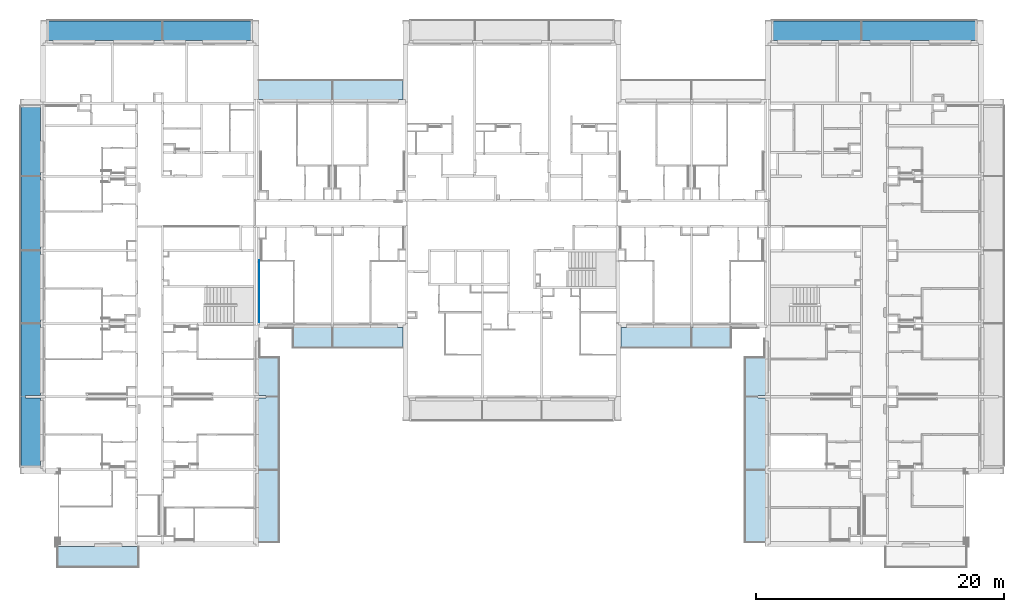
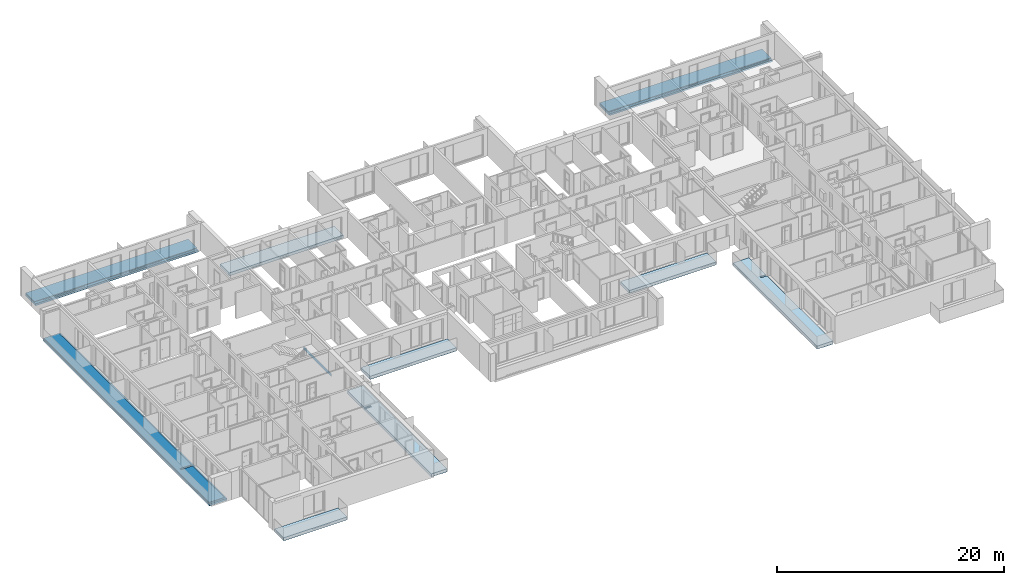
# One storey, part 1 of 64: 7 slabs, 3 beams.
"""IFC2X3 building model written with IfcOpenShell, lengths in millimetres."""

from ifc_helpers import new_model, entity, si_unit, converted_unit, derived_unit, money_unit, direction, frame, origin_with_axes, place, context, subcontext, project, spatial, faceted_brep, material, material_list, type_object, element, save


model = new_model("IFC2X3")

# Units and contexts
model_context = context("Model", 3, precision=0.01, world=origin_with_axes(), true_north=direction((0.34421633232, 0.938890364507)))
body_context = subcontext(model_context, "Body", "Model", "MODEL_VIEW")
ifc_project = project(units=[si_unit("LENGTHUNIT", "METRE", prefix="MILLI"), si_unit("AREAUNIT", "SQUARE_METRE"), si_unit("VOLUMEUNIT", "CUBIC_METRE"), converted_unit("PLANEANGLEUNIT", "DEGREE", entity("IfcPlaneAngleMeasure", 0.0174532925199), si_unit("PLANEANGLEUNIT", "RADIAN"), dimensions=[0, 0, 0, 0, 0, 0, 0]), si_unit("SOLIDANGLEUNIT", "STERADIAN"), money_unit("USD"), converted_unit("TIMEUNIT", "Year", entity("IfcTimeMeasure", 31556926.0), si_unit("TIMEUNIT", "SECOND"), dimensions=[0, 0, 1, 0, 0, 0, 0]), si_unit("MASSUNIT", "GRAM", prefix="KILO"), si_unit("THERMODYNAMICTEMPERATUREUNIT", "DEGREE_CELSIUS"), si_unit("LUMINOUSINTENSITYUNIT", "LUMEN"), si_unit("ENERGYUNIT", "JOULE", prefix="MEGA"), derived_unit("THERMALCONDUCTANCEUNIT", [(si_unit("POWERUNIT", "WATT"), 1), (si_unit("LENGTHUNIT", "METRE"), -1), (si_unit("THERMODYNAMICTEMPERATUREUNIT", "KELVIN"), -1)]), derived_unit("SPECIFICHEATCAPACITYUNIT", [(si_unit("ENERGYUNIT", "JOULE"), 1), (si_unit("MASSUNIT", "GRAM", prefix="KILO"), -1), (si_unit("THERMODYNAMICTEMPERATUREUNIT", "KELVIN"), -1)]), derived_unit("MASSDENSITYUNIT", [(si_unit("MASSUNIT", "GRAM", prefix="KILO"), 1), (si_unit("VOLUMEUNIT", "CUBIC_METRE"), -1)])], contexts=[model_context])

# Site, building, storey
site_placement = place(None, origin_with_axes())
site = spatial("IfcSite", under=ifc_project, at=site_placement, Name="USTRONIE MORSKIE", CompositionType="ELEMENT")
building_placement = place(site_placement, origin_with_axes())
building = spatial("IfcBuilding", under=site, at=building_placement, Name="Budynek", CompositionType="ELEMENT")
storey_placement = place(building_placement, frame((0.0, 0.0, 7000.0), z_axis=(0.0, 0.0, 1.0), x_axis=(1.0, 0.0, 0.0)))
storey = spatial("IfcBuildingStorey", under=building, at=storey_placement, Name="PIĘTRO 2", CompositionType="ELEMENT", Elevation=7000.0)

# Beams
ifc_material_1 = material(Name="Laminat")
ifc_material_2 = material(Name="Membrana przeciwwilgociowa")
ifc_material_3 = material(Name="Blacha ocynkowana")
ifc_material_4 = material(Name="Beton konstrukcyjny B25")
ifc_material_5 = material(Name="Płyty styropianowe twarde HIGH-PRIORITY")
ifc_material_list_1 = material_list([ifc_material_1, ifc_material_2, ifc_material_3, ifc_material_4, ifc_material_5])
beam_type = type_object("IfcBeamType", Name="USTR - balkon_02 1810 x 320", PredefinedType="NOTDEFINED")
beam_1_placement = place(storey_placement, frame((425357.789911, 749551.197031, -360.000001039), z_axis=(0.0, 0.0, 1.0), x_axis=(-9.14543761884e-06, 0.999999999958, 0.0)))
element("IfcBeam", 1, at=beam_1_placement, inside=storey, type_object=beam_type, material=ifc_material_list_1, Name="B1", context=body_context, shape_type="Brep", body=[
    faceted_brep([(1782.49979959, 16579.8526906, 214.999996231), (1782.49979959, 16579.8526906, 309.999996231), (1782.4997996, 0.0, 309.999996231), (1782.4997996, 0.0, 214.999996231), (214.999892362, 16579.867026, 309.999996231), (1757.49989236, 16579.8529192, 214.999996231), (1757.49989236, 16579.8529192, 284.999996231), (214.999892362, 16579.867026, 284.999996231), (214.999892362, 0.0, 309.999996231), (214.999892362, 0.0, 284.999996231), (1757.49989236, 0.0, 284.999996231), (1757.49989236, 0.0, 214.999996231)], [[[0, 1, 2, 3]], [[4, 1, 0, 5, 6, 7]], [[1, 4, 8, 2]], [[3, 2, 8, 9, 10, 11]], [[5, 0, 3, 11]], [[6, 5, 11, 10]], [[7, 6, 10, 9]], [[4, 7, 9, 8]]]),
    faceted_brep([(1799.99979832, 0.0, 209.999997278), (1799.99979832, 16580.0, 209.999997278), (199.999975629, 16580.0, 209.999997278), (199.999975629, 0.0, 209.999997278), (1799.99979832, 0.0, 200.000019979), (1799.99979832, 16580.0, 200.000019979), (199.999975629, 16580.0, 199.999995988), (199.999975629, 0.0, 199.999995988)], [[[0, 1, 2, 3]], [[4, 5, 1, 0]], [[2, 1, 5, 6]], [[3, 2, 6, 7]], [[4, 0, 3, 7]], [[7, 6, 5, 4]]]),
    faceted_brep([(1810.03048454, 0.0, 210.000001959), (1810.03048454, 16580.0, 210.000001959), (1799.99980792, 16580.0, 210.000001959), (1799.99980792, 0.0, 210.000001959), (1810.03048454, 0.0, -10.0000071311), (1810.03048454, 16580.0, -10.0000071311), (209.999402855, 16580.0, -10.0000071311), (209.999887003, 16580.0, 1.52888350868e-05), (1799.99980792, 16580.0, -1.01926298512e-05), (1799.99980792, 0.0, -1.01926298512e-05), (209.999887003, 0.0, 1.52888350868e-05), (209.999402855, 0.0, -10.0000071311)], [[[0, 1, 2, 3]], [[4, 5, 1, 0]], [[2, 1, 5, 6, 7, 8]], [[3, 2, 8, 9]], [[4, 0, 3, 9, 10, 11]], [[11, 6, 5, 4]], [[10, 7, 6, 11]], [[9, 8, 7, 10]]]),
    faceted_brep([(199.999996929, 16580.0, 200.000023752), (99.9999716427, 16580.0, 200.000023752), (99.9999716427, 0.0, 200.000023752), (199.999996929, 0.0, 200.000023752), (1799.99981143, 16580.0, 200.000023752), (1799.99981143, 16580.0, 0.0), (209.999887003, 16580.0, 1.52888350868e-05), (99.9999716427, 16580.0, 0.0), (99.9999716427, 0.0, 0.0), (209.999887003, 0.0, 1.52888350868e-05), (1799.99981143, 0.0, 0.0), (1799.99981143, 0.0, 200.000023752)], [[[0, 1, 2, 3]], [[0, 4, 5, 6, 7, 1]], [[1, 7, 8, 2]], [[3, 2, 8, 9, 10, 11]], [[4, 0, 3, 11]], [[5, 4, 11, 10]], [[6, 5, 10, 9]], [[7, 6, 9, 8]]]),
    faceted_brep([(99.9999724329, 16580.0, 200.000021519), (99.9999724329, 16580.0, 0.0), (0.15345995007, 16580.0, 0.0), (0.15345995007, 16580.0, 200.000000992), (99.9999724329, 0.0, 200.000021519), (99.9999724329, 0.0, 0.0), (1.13686837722e-10, 1215.21575935, 0.0), (0.0, 0.0, 0.0), (0.0, 1215.21576401, 200.000021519), (0.0, 0.0, 200.000021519)], [[[0, 1, 2, 3]], [[1, 0, 4, 5]], [[6, 2, 1, 5, 7]], [[2, 6, 8, 3]], [[3, 8, 9, 4, 0]], [[5, 4, 9, 7]], [[8, 6, 7, 9]]]),
])
beam_2_placement = place(storey_placement, frame((349967.921003, 715201.199036, -360.000001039), z_axis=(0.0, 0.0, 1.0), x_axis=(1.0, 0.0, 0.0)))
element("IfcBeam", 2, at=beam_2_placement, inside=storey, type_object=beam_type, material=ifc_material_list_1, Name="P8", context=body_context, shape_type="Brep", body=[
    faceted_brep([(-214.999892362, 29290.0, 284.999996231), (-214.999892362, 29290.0, 309.999996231), (-214.999892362, 5900.0, 309.999996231), (-214.999892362, 5900.0, 284.999996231), (-1782.4997996, 29290.0, 309.999996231), (-1757.49989236, 29290.0, 284.999996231), (-1757.49989236, 29290.0, 214.999996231), (-1782.4997996, 29290.0, 214.999996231), (-1782.4997996, 110.0, 309.999996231), (-214.999892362, 110.0, 309.999996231), (-214.999892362, 5700.0, 309.999996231), (-1420.00008423, 5700.0, 309.999996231), (-1420.00008423, 5900.0, 309.999996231), (-1420.00008423, 5900.0, 284.999996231), (-1420.00008423, 5700.0, 284.999996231), (-214.999892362, 5700.0, 284.999996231), (-214.999892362, 110.0, 284.999996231), (-1757.49989236, 110.0, 284.999996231), (-1757.49989236, 110.0, 214.999996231), (-1782.4997996, 110.0, 214.999996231)], [[[0, 1, 2, 3]], [[4, 1, 0, 5, 6, 7]], [[1, 4, 8, 9, 10, 11, 12, 2]], [[3, 2, 12, 13]], [[5, 0, 3, 13, 14, 15, 16, 17]], [[6, 5, 17, 18]], [[7, 6, 18, 19]], [[4, 7, 19, 8]], [[16, 9, 8, 19, 18, 17]], [[15, 10, 9, 16]], [[11, 10, 15, 14]], [[12, 11, 14, 13]]]),
    faceted_brep([(-1420.00008423, 5700.0, 210.000015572), (-1420.00008423, 5900.0, 210.000015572), (-199.99997563, 5900.0, 209.999997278), (-199.99997563, 29400.0, 209.999997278), (-1799.99979832, 29400.0, 209.999997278), (-1799.99979832, 0.0, 209.999997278), (-199.99997563, 0.0, 209.999997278), (-199.99997563, 5700.0, 209.999997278), (-1420.00008423, 5700.0, 200.000001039), (-1420.00008423, 5900.0, 200.000001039), (-199.99997563, 5900.0, 200.000001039), (-199.99997563, 29400.0, 199.999995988), (-1799.99979832, 29400.0, 200.000019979), (-1799.99979832, 0.0, 200.000019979), (-199.99997563, 0.0, 199.999995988), (-199.99997563, 5700.0, 200.000001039)], [[[0, 1, 2, 3, 4, 5, 6, 7]], [[1, 0, 8, 9]], [[10, 2, 1, 9]], [[2, 10, 11, 3]], [[11, 12, 4, 3]], [[5, 4, 12, 13]], [[5, 13, 14, 6]], [[15, 7, 6, 14]], [[0, 7, 15, 8]], [[8, 15, 14, 13, 12, 11, 10, 9]]]),
    faceted_brep([(-1420.00008423, 5700.0, 1.039014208e-06), (-1420.00008423, 5900.0, 1.039014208e-06), (-209.999887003, 5900.0, 1.039014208e-06), (-209.999887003, 29400.0, 1.52888350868e-05), (-1799.99980792, 29400.0, -1.01926298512e-05), (-1799.99980792, 0.0, -1.01926298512e-05), (-209.999887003, 0.0, 1.52888350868e-05), (-209.999887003, 5700.0, 1.039014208e-06), (-1420.00008423, 5700.0, -10.0000071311), (-1420.00008423, 5900.0, -10.0000071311), (-209.999402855, 5900.0, -10.0000071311), (-209.999402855, 29400.0, -10.0000071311), (-1810.03048454, 29400.0, -10.0000071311), (-1810.03048454, 29400.0, 210.000001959), (-1799.99980792, 29400.0, 210.000001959), (-1799.99980792, 0.0, 210.000001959), (-1810.03048454, 0.0, 210.000001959), (-1810.03048454, 0.0, -10.0000071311), (-209.999402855, 0.0, -10.0000071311), (-209.999402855, 5700.0, -10.0000071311)], [[[0, 1, 2, 3, 4, 5, 6, 7]], [[1, 0, 8, 9]], [[10, 2, 1, 9]], [[2, 10, 11, 3]], [[11, 12, 13, 14, 4, 3]], [[5, 4, 14, 15]], [[16, 17, 18, 6, 5, 15]], [[19, 7, 6, 18]], [[0, 7, 19, 8]], [[8, 19, 18, 17, 12, 11, 10, 9]], [[16, 13, 12, 17]], [[15, 14, 13, 16]]]),
    faceted_brep([(-1799.99981143, 29400.0, 200.000023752), (-1799.99981143, 29400.0, 0.0), (-1799.99981143, 0.0, 0.0), (-1799.99981143, 0.0, 200.000023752), (-199.999996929, 29400.0, 200.000023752), (-99.9999716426, 29400.0, 200.000023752), (-99.9999716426, 29400.0, 0.0), (-209.999887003, 29400.0, 1.52888350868e-05), (-209.999887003, 0.0, 1.52888350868e-05), (-99.9999716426, 0.0, 0.0), (-99.9999716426, 0.0, 200.000023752), (-199.999996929, 0.0, 200.000023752)], [[[0, 1, 2, 3]], [[0, 4, 5, 6, 7, 1]], [[1, 7, 8, 2]], [[3, 2, 8, 9, 10, 11]], [[4, 0, 3, 11]], [[5, 4, 11, 10]], [[6, 5, 10, 9]], [[7, 6, 9, 8]]]),
    faceted_brep([(-99.9999724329, 0.0, 200.000021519), (-99.9999724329, 29400.0, 200.000021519), (-99.9999724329, 29400.0, 0.0), (-99.9999724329, 0.0, 0.0), (0.0, 0.0, 200.000021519), (0.0, 29400.0, 200.000021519), (0.0, 29400.0, 0.0), (0.0, 0.0, 0.0)], [[[0, 1, 2, 3]], [[4, 5, 1, 0]], [[2, 1, 5, 6]], [[3, 2, 6, 7]], [[4, 0, 3, 7]], [[7, 6, 5, 4]]]),
])
beam_3_placement = place(storey_placement, frame((366857.789911, 749551.197031, -360.000001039), z_axis=(0.0, 0.0, 1.0), x_axis=(-9.14543761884e-06, 0.999999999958, 0.0)))
element("IfcBeam", 3, at=beam_3_placement, inside=storey, type_object=beam_type, material=ifc_material_list_1, Name="B1", context=body_context, shape_type="Brep", body=[
    faceted_brep([(1782.49979959, 16579.8526906, 214.999996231), (1782.49979959, 16579.8526906, 309.999996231), (1782.49979959, 0.0, 309.999996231), (1782.49979959, 0.0, 214.999996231), (214.999892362, 16579.867026, 309.999996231), (1757.49989236, 16579.8529192, 214.999996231), (1757.49989236, 16579.8529192, 284.999996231), (214.999892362, 16579.867026, 284.999996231), (214.999892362, 0.0, 309.999996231), (214.999892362, 0.0, 284.999996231), (1757.49989236, 0.0, 284.999996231), (1757.49989236, 0.0, 214.999996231)], [[[0, 1, 2, 3]], [[4, 1, 0, 5, 6, 7]], [[1, 4, 8, 2]], [[3, 2, 8, 9, 10, 11]], [[5, 0, 3, 11]], [[6, 5, 11, 10]], [[7, 6, 10, 9]], [[4, 7, 9, 8]]]),
    faceted_brep([(1799.99979832, 0.0, 209.999997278), (1799.99979832, 16580.0, 209.999997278), (199.999975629, 16580.0, 209.999997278), (199.999975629, 0.0, 209.999997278), (1799.99979832, 0.0, 200.000019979), (1799.99979832, 16580.0, 200.000019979), (199.999975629, 16580.0, 199.999995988), (199.999975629, 0.0, 199.999995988)], [[[0, 1, 2, 3]], [[4, 5, 1, 0]], [[2, 1, 5, 6]], [[3, 2, 6, 7]], [[4, 0, 3, 7]], [[7, 6, 5, 4]]]),
    faceted_brep([(1810.03048454, 0.0, 210.000001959), (1810.03048454, 16580.0, 210.000001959), (1799.99980792, 16580.0, 210.000001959), (1799.99980792, 0.0, 210.000001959), (1810.03048454, 0.0, -10.0000071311), (1810.03048454, 16580.0, -10.0000071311), (209.999402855, 16580.0, -10.0000071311), (209.999887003, 16580.0, 1.52888350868e-05), (1799.99980792, 16580.0, -1.01926298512e-05), (1799.99980792, 0.0, -1.01926298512e-05), (209.999887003, 0.0, 1.52888350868e-05), (209.999402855, 0.0, -10.0000071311)], [[[0, 1, 2, 3]], [[4, 5, 1, 0]], [[2, 1, 5, 6, 7, 8]], [[3, 2, 8, 9]], [[4, 0, 3, 9, 10, 11]], [[11, 6, 5, 4]], [[10, 7, 6, 11]], [[9, 8, 7, 10]]]),
    faceted_brep([(199.999996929, 16580.0, 200.000023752), (99.9999716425, 16580.0, 200.000023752), (99.9999716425, 0.0, 200.000023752), (199.999996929, 0.0, 200.000023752), (1799.99981143, 16580.0, 200.000023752), (1799.99981143, 16580.0, 0.0), (209.999887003, 16580.0, 1.52888350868e-05), (99.9999716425, 16580.0, 0.0), (99.9999716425, 0.0, 0.0), (209.999887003, 0.0, 1.52888350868e-05), (1799.99981143, 0.0, 0.0), (1799.99981143, 0.0, 200.000023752)], [[[0, 1, 2, 3]], [[0, 4, 5, 6, 7, 1]], [[1, 7, 8, 2]], [[3, 2, 8, 9, 10, 11]], [[4, 0, 3, 11]], [[5, 4, 11, 10]], [[6, 5, 10, 9]], [[7, 6, 9, 8]]]),
    faceted_brep([(0.104341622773, 11189.8689911, 200.000001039), (0.0512980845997, 5389.86899137, 200.000001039), (0.0494689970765, 5189.86899138, 200.000001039), (0.00200537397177, 0.0, 200.000001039), (99.9999724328, 0.0, 200.000021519), (99.9999724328, 16580.0, 200.000021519), (0.153636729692, 16580.0, 200.000001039), (0.106170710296, 11389.8689911, 200.000001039), (0.153636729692, 16580.0, 0.0), (0.106170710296, 11389.8689911, 1.03901331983e-06), (0.104341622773, 11189.8689911, 1.03901331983e-06), (0.0512980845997, 5389.86899137, 1.03901331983e-06), (0.0494689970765, 5189.86899138, 1.03901331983e-06), (0.00200537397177, 0.0, 0.0), (99.9999724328, 0.0, 0.0), (99.9999724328, 16580.0, 0.0)], [[[0, 1, 2, 3, 4, 5, 6, 7]], [[2, 1, 0, 7, 6, 8, 9, 10, 11, 12, 13, 3]], [[3, 13, 14, 4]], [[14, 15, 5, 4]], [[8, 6, 5, 15]], [[9, 8, 15, 14, 13, 12, 11, 10]]]),
])

# Slabs
ifc_material_6 = material(Name="Wylewka")
ifc_material_7 = material(Name="Płyty styropianowe EPS PODŁOGA")
ifc_material_8 = material(Name="STROP monolityczny")
ifc_material_list_2 = material_list([ifc_material_6, ifc_material_7, ifc_material_8])
slab_type_1 = type_object("IfcSlabType", Name="502-PS STROP POWTARZALNA 360", PredefinedType="FLOOR")
slab_1_placement = place(storey_placement, frame((367417.932951, 732011.199132, 0.0), z_axis=(0.0, 0.0, 1.0), x_axis=(1.0, 0.0, 0.0)))
element("IfcSlab", 4, at=slab_1_placement, inside=storey, type_object=slab_type_1, material=ifc_material_list_2, Name="P4", PredefinedType="FLOOR", context=body_context, shape_type="Brep", body=[
    faceted_brep([(0.000114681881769, -120.0, -80.0), (0.000114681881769, -120.0, -15.0), (0.00478796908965, -5010.00009633, -15.0), (0.00478796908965, -5010.00009633, -80.0), (-0.0120320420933, -120.0, -15.0), (-0.0120320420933, -120.0, -80.0), (-0.0120320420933, -5010.00009633, -15.0), (-0.0120320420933, -5010.00009633, -80.0)], [[[0, 1, 2, 3]], [[4, 1, 0, 5]], [[1, 4, 6, 2]], [[7, 3, 2, 6]], [[5, 0, 3, 7]], [[4, 5, 7, 6]]]),
    faceted_brep([(0.000114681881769, -120.0, -160.0), (0.000114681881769, -120.0, -80.0), (0.00478796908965, -5010.00009633, -80.0), (0.00478796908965, -5010.00009633, -160.0), (-0.0120320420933, -120.0, -80.0), (-0.0120320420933, -120.0, -160.0), (-0.0120320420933, -5010.00009633, -80.0), (-0.0120320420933, -5010.00009633, -160.0)], [[[0, 1, 2, 3]], [[4, 1, 0, 5]], [[1, 4, 6, 2]], [[7, 3, 2, 6]], [[5, 0, 3, 7]], [[4, 5, 7, 6]]]),
    faceted_brep([(0.0, 0.0, -360.0), (-0.0120320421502, 0.0, -360.0), (-0.0120320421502, 0.0, -160.0), (0.0, 0.0, -160.0), (0.00478796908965, -5010.00009633, -360.0), (-0.0120320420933, -5010.00009633, -360.0), (-0.0120320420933, -5010.00009633, -160.0), (0.00478796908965, -5010.00009633, -160.0)], [[[0, 1, 2, 3]], [[0, 4, 5, 1]], [[1, 5, 6, 2]], [[3, 2, 6, 7]], [[4, 0, 3, 7]], [[5, 4, 7, 6]]]),
])
ifc_material_9 = material(Name="Płytki okładzinowe")
ifc_material_10 = material(Name="Pustka powietrzna")
ifc_material_list_3 = material_list([ifc_material_9, ifc_material_10, ifc_material_2, ifc_material_4, ifc_material_1])
slab_type_2 = type_object("IfcSlabType", Name="Balkony na HALFENACH 330", PredefinedType="FLOOR")
slab_2_placement = place(storey_placement, frame((367367.920919, 745001.199408, -50.0), z_axis=(0.0, 0.0, 1.0), x_axis=(1.0, 0.0, 0.0)))
element("IfcSlab", 5, at=slab_2_placement, inside=storey, type_object=slab_type_2, material=ifc_material_list_3, Name="P3", PredefinedType="FLOOR", context=body_context, shape_type="Brep", body=[
    faceted_brep([(0.0, 0.0, -25.0), (11650.0, 0.0132933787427, -25.0), (11650.0, 0.0132933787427, 0.0), (0.0, 0.0, 0.0), (0.0, 1599.99472734, -25.0), (11650.0, 1599.99472734, -25.0), (11650.0, 1599.99472734, 0.0), (0.0, 1599.99472734, 0.0)], [[[0, 1, 2, 3]], [[1, 0, 4, 5]], [[1, 5, 6, 2]], [[7, 3, 2, 6]], [[4, 0, 3, 7]], [[5, 4, 7, 6]]]),
    faceted_brep([(0.0, 0.0, -105.0), (11650.0, 0.0132933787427, -105.0), (11650.0, 0.0132933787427, -25.0), (0.0, 0.0, -25.0), (0.0, 1599.99472734, -105.0), (11650.0, 1599.99472734, -105.0), (11650.0, 1599.99472734, -25.0), (0.0, 1599.99472734, -25.0)], [[[0, 1, 2, 3]], [[1, 0, 4, 5]], [[1, 5, 6, 2]], [[7, 3, 2, 6]], [[4, 0, 3, 7]], [[5, 4, 7, 6]]]),
    faceted_brep([(0.0, 0.0, -110.0), (11650.0, 0.0132933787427, -110.0), (11650.0, 0.0132933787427, -105.0), (0.0, 0.0, -105.0), (0.0, 1599.99472734, -110.0), (11650.0, 1599.99472734, -110.0), (11650.0, 1599.99472734, -105.0), (0.0, 1599.99472734, -105.0)], [[[0, 1, 2, 3]], [[1, 0, 4, 5]], [[1, 5, 6, 2]], [[7, 3, 2, 6]], [[4, 0, 3, 7]], [[5, 4, 7, 6]]]),
    faceted_brep([(11650.0, 0.0132933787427, -310.0), (11650.0, 0.0132933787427, -110.0), (0.0, 0.0, -110.0), (0.0, 0.0, -310.0), (11650.0, 1599.99472734, -310.0), (11650.0, 1599.99472734, -110.0), (0.0, 1599.99472734, -110.0), (0.0, 1599.99472734, -310.0)], [[[0, 1, 2, 3]], [[4, 5, 1, 0]], [[2, 1, 5, 6]], [[3, 2, 6, 7]], [[3, 7, 4, 0]], [[7, 6, 5, 4]]]),
    faceted_brep([(9.99999999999, 1599.99472734, -330.0), (9.99999999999, 1599.99472734, -310.0), (11640.0, 1599.99472734, -310.0), (11640.0, 1599.99472734, -330.0), (9.99999999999, 9.9999141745, -310.0), (9.99999999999, 9.9999141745, -330.0), (11640.0, 9.9999141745, -310.0), (11640.0, 9.9999141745, -330.0)], [[[0, 1, 2, 3]], [[4, 1, 0, 5]], [[1, 4, 6, 2]], [[3, 2, 6, 7]], [[5, 0, 3, 7]], [[4, 5, 7, 6]]]),
])
slab_3_placement = place(storey_placement, frame((396619.640549, 725001.198359, -50.0), z_axis=(0.0, 0.0, 1.0), x_axis=(1.0, 0.0, 0.0)))
element("IfcSlab", 6, at=slab_3_placement, inside=storey, type_object=slab_type_2, material=ifc_material_list_3, Name="P3", PredefinedType="FLOOR", context=body_context, shape_type="Brep", body=[
    faceted_brep([(0.0, 0.0, -25.0), (8838.27323738, 0.0, -25.0), (8838.27323738, 0.0, 0.0), (0.0, 0.0, 0.0), (-1.44800593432, 1600.00067759, -25.0), (8838.27323738, 1600.00067759, -25.0), (8838.27323738, 1600.00067759, 0.0), (-1.44800593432, 1600.00067759, 0.0)], [[[0, 1, 2, 3]], [[1, 0, 4, 5]], [[1, 5, 6, 2]], [[7, 3, 2, 6]], [[4, 0, 3, 7]], [[5, 4, 7, 6]]]),
    faceted_brep([(0.0, 0.0, -105.0), (8838.27323738, 0.0, -105.0), (8838.27323738, 0.0, -25.0), (0.0, 0.0, -25.0), (-1.44800593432, 1600.00067759, -105.0), (8838.27323738, 1600.00067759, -105.0), (8838.27323738, 1600.00067759, -25.0), (-1.44800593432, 1600.00067759, -25.0)], [[[0, 1, 2, 3]], [[1, 0, 4, 5]], [[1, 5, 6, 2]], [[7, 3, 2, 6]], [[4, 0, 3, 7]], [[5, 4, 7, 6]]]),
    faceted_brep([(0.0, 0.0, -110.0), (8838.27323738, 0.0, -110.0), (8838.27323738, 0.0, -105.0), (0.0, 0.0, -105.0), (-1.44800593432, 1600.00067759, -110.0), (8838.27323738, 1600.00067759, -110.0), (8838.27323738, 1600.00067759, -105.0), (-1.44800593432, 1600.00067759, -105.0)], [[[0, 1, 2, 3]], [[1, 0, 4, 5]], [[1, 5, 6, 2]], [[7, 3, 2, 6]], [[4, 0, 3, 7]], [[5, 4, 7, 6]]]),
    faceted_brep([(8838.27323738, 0.0, -310.0), (8838.27323738, 0.0, -110.0), (0.0, 0.0, -110.0), (0.0, 0.0, -310.0), (8838.27323738, 1600.00067759, -310.0), (8838.27323738, 1600.00067759, -110.0), (-1.44800593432, 1600.00067759, -110.0), (-1.44800593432, 1600.00067759, -310.0)], [[[0, 1, 2, 3]], [[4, 5, 1, 0]], [[2, 1, 5, 6]], [[3, 2, 6, 7]], [[3, 7, 4, 0]], [[7, 6, 5, 4]]]),
    faceted_brep([(8838.27323738, 1590.00067759, -330.0), (8838.27323738, 1590.00067759, -310.0), (8838.27323738, 0.0, -310.0), (8838.27323738, 0.0, -330.0), (8.28037021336, 1590.00067759, -310.0), (8.28037021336, 1590.00067759, -330.0), (8.28037021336, 0.0, -310.0), (8.28037021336, 0.0, -330.0)], [[[0, 1, 2, 3]], [[4, 1, 0, 5]], [[1, 4, 6, 2]], [[6, 7, 3, 2]], [[5, 0, 3, 7]], [[4, 5, 7, 6]]]),
])
slab_4_placement = place(storey_placement, frame((351167.920919, 707301.199036, -50.0), z_axis=(0.0, 0.0, 1.0), x_axis=(1.0, 0.0, 0.0)))
element("IfcSlab", 7, at=slab_4_placement, inside=storey, type_object=slab_type_2, material=ifc_material_list_3, Name="P3", PredefinedType="FLOOR", context=body_context, shape_type="Brep", body=[
    faceted_brep([(6450.0, 0.0, -25.0), (6450.0, 0.0, 0.0), (0.0, 0.0, 0.0), (0.0, 0.0, -25.0), (6450.0, 1600.0, -25.0), (6450.0, 1600.0, 0.0), (0.0, 1600.0, 0.0), (0.0, 1600.0, -25.0)], [[[0, 1, 2, 3]], [[4, 5, 1, 0]], [[2, 1, 5, 6]], [[3, 2, 6, 7]], [[3, 7, 4, 0]], [[7, 6, 5, 4]]]),
    faceted_brep([(6450.0, 0.0, -105.0), (6450.0, 0.0, -25.0), (0.0, 0.0, -25.0), (0.0, 0.0, -105.0), (6450.0, 1600.0, -105.0), (6450.0, 1600.0, -25.0), (0.0, 1600.0, -25.0), (0.0, 1600.0, -105.0)], [[[0, 1, 2, 3]], [[4, 5, 1, 0]], [[2, 1, 5, 6]], [[3, 2, 6, 7]], [[3, 7, 4, 0]], [[7, 6, 5, 4]]]),
    faceted_brep([(6450.0, 0.0, -110.0), (6450.0, 0.0, -105.0), (0.0, 0.0, -105.0), (0.0, 0.0, -110.0), (6450.0, 1600.0, -110.0), (6450.0, 1600.0, -105.0), (0.0, 1600.0, -105.0), (0.0, 1600.0, -110.0)], [[[0, 1, 2, 3]], [[4, 5, 1, 0]], [[2, 1, 5, 6]], [[3, 2, 6, 7]], [[3, 7, 4, 0]], [[7, 6, 5, 4]]]),
    faceted_brep([(6450.0, 0.0, -310.0), (6450.0, 0.0, -110.0), (0.0, 0.0, -110.0), (0.0, 0.0, -310.0), (6450.0, 1600.0, -310.0), (6450.0, 1600.0, -110.0), (0.0, 1600.0, -110.0), (0.0, 1600.0, -310.0)], [[[0, 1, 2, 3]], [[4, 5, 1, 0]], [[2, 1, 5, 6]], [[3, 2, 6, 7]], [[3, 7, 4, 0]], [[7, 6, 5, 4]]]),
    faceted_brep([(6450.0, 1590.0, -330.0), (6450.0, 1590.0, -310.0), (6450.0, 0.0, -310.0), (6450.0, 0.0, -330.0), (0.0, 1590.0, -310.0), (0.0, 1590.0, -330.0), (0.0, 0.0, -310.0), (0.0, 0.0, -330.0)], [[[0, 1, 2, 3]], [[4, 1, 0, 5]], [[1, 4, 6, 2]], [[6, 7, 3, 2]], [[5, 0, 3, 7]], [[4, 5, 7, 6]]]),
])
slab_5_placement = place(storey_placement, frame((379016.472913, 725001.198359, -50.0), z_axis=(0.0, 0.0, 1.0), x_axis=(1.0, 0.0, 0.0)))
element("IfcSlab", 8, at=slab_5_placement, inside=storey, type_object=slab_type_2, material=ifc_material_list_3, Name="P3", PredefinedType="FLOOR", context=body_context, shape_type="Brep", body=[
    faceted_brep([(0.0, 0.0, -25.0), (1.44800593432, 1600.00067759, -25.0), (1.44800593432, 1600.00067759, 0.0), (0.0, 0.0, 0.0), (-8838.53264369, 0.0, -25.0), (-8838.53264369, 1600.00067759, -25.0), (-8838.53264369, 1600.00067759, 0.0), (-8838.53264369, 0.0, 0.0)], [[[0, 1, 2, 3]], [[1, 0, 4, 5]], [[1, 5, 6, 2]], [[7, 3, 2, 6]], [[4, 0, 3, 7]], [[5, 4, 7, 6]]]),
    faceted_brep([(0.0, 0.0, -105.0), (1.44800593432, 1600.00067759, -105.0), (1.44800593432, 1600.00067759, -25.0), (0.0, 0.0, -25.0), (-8838.53264369, 0.0, -105.0), (-8838.53264369, 1600.00067759, -105.0), (-8838.53264369, 1600.00067759, -25.0), (-8838.53264369, 0.0, -25.0)], [[[0, 1, 2, 3]], [[1, 0, 4, 5]], [[1, 5, 6, 2]], [[7, 3, 2, 6]], [[4, 0, 3, 7]], [[5, 4, 7, 6]]]),
    faceted_brep([(0.0, 0.0, -110.0), (1.44800593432, 1600.00067759, -110.0), (1.44800593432, 1600.00067759, -105.0), (0.0, 0.0, -105.0), (-8838.53264369, 0.0, -110.0), (-8838.53264369, 1600.00067759, -110.0), (-8838.53264369, 1600.00067759, -105.0), (-8838.53264369, 0.0, -105.0)], [[[0, 1, 2, 3]], [[1, 0, 4, 5]], [[1, 5, 6, 2]], [[7, 3, 2, 6]], [[4, 0, 3, 7]], [[5, 4, 7, 6]]]),
    faceted_brep([(1.44800593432, 1600.00067759, -310.0), (1.44800593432, 1600.00067759, -110.0), (0.0, 0.0, -110.0), (0.0, 0.0, -310.0), (-8838.53264369, 1600.00067759, -310.0), (-8838.53264369, 1600.00067759, -110.0), (-8838.53264369, 0.0, -110.0), (-8838.53264369, 0.0, -310.0)], [[[0, 1, 2, 3]], [[4, 5, 1, 0]], [[2, 1, 5, 6]], [[3, 2, 6, 7]], [[3, 7, 4, 0]], [[7, 6, 5, 4]]]),
    faceted_brep([(-8.55199406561, 1590.00067759, -330.0), (-8.55199406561, 1590.00067759, -310.0), (-8.55199406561, 0.0, -310.0), (-8.55199406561, 0.0, -330.0), (-8838.53264369, 1590.00067759, -310.0), (-8838.53264369, 1590.00067759, -330.0), (-8838.53264369, 0.0, -310.0), (-8838.53264369, 0.0, -330.0)], [[[0, 1, 2, 3]], [[4, 1, 0, 5]], [[1, 4, 6, 2]], [[3, 2, 6, 7]], [[5, 0, 3, 7]], [[4, 5, 7, 6]]]),
])
slab_6_placement = place(storey_placement, frame((368967.926139, 724111.198359, -50.0), z_axis=(0.0, 0.0, 1.0), x_axis=(1.0, 0.0, 0.0)))
element("IfcSlab", 9, at=slab_6_placement, inside=storey, type_object=slab_type_2, material=ifc_material_list_3, Name="P8", PredefinedType="FLOOR", context=body_context, shape_type="Brep", body=[
    faceted_brep([(-999.973941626, -3209.99932241, 0.0), (-1599.99554433, -3209.99932241, 0.0), (-1599.96899022, -14809.9993224, 0.0), (0.0309754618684, -14809.9993224, 0.0), (0.0, 0.0, 0.0), (-1600.0028925, 0.0, 0.0), (-1599.99600216, -3009.99932241, 0.0), (-999.973941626, -3009.99932241, 0.0), (-999.973941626, -3209.99932241, -25.0), (-1599.99554433, -3209.99932241, -25.0), (-1599.96899022, -14809.9993224, -25.0), (0.0309754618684, -14809.9993224, -25.0), (0.0, 0.0, -25.0), (-1600.0028925, 0.0, -25.0), (-1599.99600216, -3009.99932241, -25.0), (-999.973941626, -3009.99932241, -25.0)], [[[0, 1, 2, 3, 4, 5, 6, 7]], [[1, 0, 8, 9]], [[1, 9, 10, 2]], [[10, 11, 3, 2]], [[11, 12, 4, 3]], [[12, 13, 5, 4]], [[14, 6, 5, 13]], [[7, 6, 14, 15]], [[0, 7, 15, 8]], [[15, 14, 13, 12, 11, 10, 9, 8]]]),
    faceted_brep([(-999.973941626, -3209.99932241, -25.0), (-1599.99554433, -3209.99932241, -25.0), (-1599.96899022, -14809.9993224, -25.0), (0.0309754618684, -14809.9993224, -25.0), (0.0, 0.0, -25.0), (-1600.0028925, 0.0, -25.0), (-1599.99600216, -3009.99932241, -25.0), (-999.973941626, -3009.99932241, -25.0), (-999.973941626, -3209.99932241, -105.0), (-1599.99554433, -3209.99932241, -105.0), (-1599.96899022, -14809.9993224, -105.0), (0.0309754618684, -14809.9993224, -105.0), (0.0, 0.0, -105.0), (-1600.0028925, 0.0, -105.0), (-1599.99600216, -3009.99932241, -105.0), (-999.973941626, -3009.99932241, -105.0)], [[[0, 1, 2, 3, 4, 5, 6, 7]], [[1, 0, 8, 9]], [[1, 9, 10, 2]], [[10, 11, 3, 2]], [[11, 12, 4, 3]], [[12, 13, 5, 4]], [[14, 6, 5, 13]], [[7, 6, 14, 15]], [[0, 7, 15, 8]], [[15, 14, 13, 12, 11, 10, 9, 8]]]),
    faceted_brep([(-999.973941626, -3209.99932241, -105.0), (-1599.99554433, -3209.99932241, -105.0), (-1599.96899022, -14809.9993224, -105.0), (0.0309754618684, -14809.9993224, -105.0), (0.0, 0.0, -105.0), (-1600.0028925, 0.0, -105.0), (-1599.99600216, -3009.99932241, -105.0), (-999.973941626, -3009.99932241, -105.0), (-999.973941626, -3209.99932241, -110.0), (-1599.99554433, -3209.99932241, -110.0), (-1599.96899022, -14809.9993224, -110.0), (0.0309754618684, -14809.9993224, -110.0), (0.0, 0.0, -110.0), (-1600.0028925, 0.0, -110.0), (-1599.99600216, -3009.99932241, -110.0), (-999.973941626, -3009.99932241, -110.0)], [[[0, 1, 2, 3, 4, 5, 6, 7]], [[1, 0, 8, 9]], [[1, 9, 10, 2]], [[10, 11, 3, 2]], [[11, 12, 4, 3]], [[12, 13, 5, 4]], [[14, 6, 5, 13]], [[7, 6, 14, 15]], [[0, 7, 15, 8]], [[15, 14, 13, 12, 11, 10, 9, 8]]]),
    faceted_brep([(-1600.0028925, 0.0, -310.0), (-1600.0028925, 0.0, -110.0), (0.0, 0.0, -110.0), (0.0, 0.0, -310.0), (-1599.96899022, -14809.9993224, -310.0), (-1599.96899022, -14809.9993224, -110.0), (0.0309754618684, -14809.9993224, -110.0), (0.0309754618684, -14809.9993224, -310.0)], [[[0, 1, 2, 3]], [[4, 5, 1, 0]], [[2, 1, 5, 6]], [[3, 2, 6, 7]], [[3, 7, 4, 0]], [[7, 6, 5, 4]]]),
    faceted_brep([(-1589.96903876, -14809.9993224, -330.0), (-1589.96903876, -14809.9993224, -310.0), (-1589.99340805, -3209.99932241, -310.0), (-1589.99340805, -3209.99932241, -330.0), (0.0309754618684, -14809.9993224, -330.0), (0.0309754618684, -14809.9993224, -310.0), (0.0, 0.0, -310.0), (-1590.00015162, 0.0, -310.0), (-1589.99382821, -3009.99932241, -310.0), (-999.973941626, -3009.99932241, -310.0), (-999.973941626, -3209.99932241, -310.0), (-999.973941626, -3209.99932241, -330.0), (-999.973941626, -3009.99932241, -330.0), (-1589.99382821, -3009.99932241, -330.0), (-1590.00015162, 0.0, -330.0), (0.0, 0.0, -330.0)], [[[0, 1, 2, 3]], [[1, 0, 4, 5]], [[2, 1, 5, 6, 7, 8, 9, 10]], [[3, 2, 10, 11]], [[0, 3, 11, 12, 13, 14, 15, 4]], [[15, 6, 5, 4]], [[14, 7, 6, 15]], [[7, 14, 13, 8]], [[8, 13, 12, 9]], [[11, 10, 9, 12]]]),
])
slab_7_placement = place(storey_placement, frame((406667.927486, 724111.198359, -50.0), z_axis=(0.0, 0.0, 1.0), x_axis=(1.0, 0.0, 0.0)))
element("IfcSlab", 10, at=slab_7_placement, inside=storey, type_object=slab_type_2, material=ifc_material_list_3, Name="P8", PredefinedType="FLOOR", context=body_context, shape_type="Brep", body=[
    faceted_brep([(999.962153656, -3209.99932241, 0.0), (999.962153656, -3009.99932241, 0.0), (1599.95191614, -3009.99932241, 0.0), (1599.95880648, 0.0, 0.0), (0.0, 0.0, 0.0), (-0.0309754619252, -14809.9993224, 0.0), (1599.9249042, -14809.9993224, 0.0), (1599.95145831, -3209.99932241, 0.0), (999.962153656, -3209.99932241, -25.0), (999.962153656, -3009.99932241, -25.0), (1599.95191614, -3009.99932241, -25.0), (1599.95880648, 0.0, -25.0), (0.0, 0.0, -25.0), (-0.0309754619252, -14809.9993224, -25.0), (1599.9249042, -14809.9993224, -25.0), (1599.95145831, -3209.99932241, -25.0)], [[[0, 1, 2, 3, 4, 5, 6, 7]], [[1, 0, 8, 9]], [[10, 2, 1, 9]], [[2, 10, 11, 3]], [[11, 12, 4, 3]], [[12, 13, 5, 4]], [[13, 14, 6, 5]], [[15, 7, 6, 14]], [[0, 7, 15, 8]], [[8, 15, 14, 13, 12, 11, 10, 9]]]),
    faceted_brep([(999.962153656, -3209.99932241, -25.0), (999.962153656, -3009.99932241, -25.0), (1599.95191614, -3009.99932241, -25.0), (1599.95880648, 0.0, -25.0), (0.0, 0.0, -25.0), (-0.0309754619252, -14809.9993224, -25.0), (1599.9249042, -14809.9993224, -25.0), (1599.95145831, -3209.99932241, -25.0), (999.962153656, -3209.99932241, -105.0), (999.962153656, -3009.99932241, -105.0), (1599.95191614, -3009.99932241, -105.0), (1599.95880648, 0.0, -105.0), (0.0, 0.0, -105.0), (-0.0309754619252, -14809.9993224, -105.0), (1599.9249042, -14809.9993224, -105.0), (1599.95145831, -3209.99932241, -105.0)], [[[0, 1, 2, 3, 4, 5, 6, 7]], [[1, 0, 8, 9]], [[10, 2, 1, 9]], [[2, 10, 11, 3]], [[11, 12, 4, 3]], [[12, 13, 5, 4]], [[13, 14, 6, 5]], [[15, 7, 6, 14]], [[0, 7, 15, 8]], [[8, 15, 14, 13, 12, 11, 10, 9]]]),
    faceted_brep([(999.962153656, -3209.99932241, -105.0), (999.962153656, -3009.99932241, -105.0), (1599.95191614, -3009.99932241, -105.0), (1599.95880648, 0.0, -105.0), (0.0, 0.0, -105.0), (-0.0309754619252, -14809.9993224, -105.0), (1599.9249042, -14809.9993224, -105.0), (1599.95145831, -3209.99932241, -105.0), (999.962153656, -3209.99932241, -110.0), (999.962153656, -3009.99932241, -110.0), (1599.95191614, -3009.99932241, -110.0), (1599.95880648, 0.0, -110.0), (0.0, 0.0, -110.0), (-0.0309754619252, -14809.9993224, -110.0), (1599.9249042, -14809.9993224, -110.0), (1599.95145831, -3209.99932241, -110.0)], [[[0, 1, 2, 3, 4, 5, 6, 7]], [[1, 0, 8, 9]], [[10, 2, 1, 9]], [[2, 10, 11, 3]], [[11, 12, 4, 3]], [[12, 13, 5, 4]], [[13, 14, 6, 5]], [[15, 7, 6, 14]], [[0, 7, 15, 8]], [[8, 15, 14, 13, 12, 11, 10, 9]]]),
    faceted_brep([(-0.0309754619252, -14809.9993224, -310.0), (-0.0309754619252, -14809.9993224, -110.0), (0.0, 0.0, -110.0), (0.0, 0.0, -310.0), (1599.9249042, -14809.9993224, -310.0), (1599.9249042, -14809.9993224, -110.0), (1599.95880648, 0.0, -110.0), (1599.95880648, 0.0, -310.0)], [[[0, 1, 2, 3]], [[4, 5, 1, 0]], [[2, 1, 5, 6]], [[3, 2, 6, 7]], [[3, 7, 4, 0]], [[7, 6, 5, 4]]]),
    faceted_brep([(999.962153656, -3209.99932241, -310.0), (999.962153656, -3009.99932241, -310.0), (1589.95704071, -3009.99932241, -310.0), (1589.95704071, 0.0, -310.0), (0.0, 0.0, -310.0), (-0.0309754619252, -14809.9993224, -310.0), (1589.95704071, -14809.9993224, -310.0), (1589.95704071, -3209.99932241, -310.0), (999.962153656, -3209.99932241, -330.0), (999.962153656, -3009.99932241, -330.0), (1589.95704071, -3009.99932241, -330.0), (1589.95704071, 0.0, -330.0), (0.0, 0.0, -330.0), (-0.0309754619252, -14809.9993224, -330.0), (1589.95704071, -14809.9993224, -330.0), (1589.95704071, -3209.99932241, -330.0)], [[[0, 1, 2, 3, 4, 5, 6, 7]], [[1, 0, 8, 9]], [[10, 2, 1, 9]], [[2, 10, 11, 3]], [[4, 3, 11, 12]], [[12, 13, 5, 4]], [[13, 14, 6, 5]], [[15, 7, 6, 14]], [[0, 7, 15, 8]], [[8, 15, 14, 13, 12, 11, 10, 9]]]),
])

save(model, "model.ifc")
